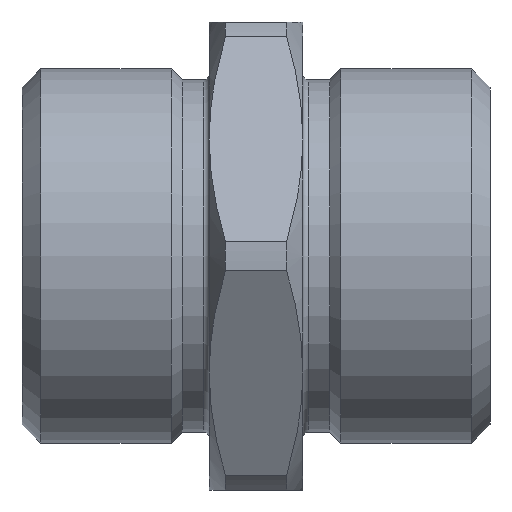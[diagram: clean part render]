
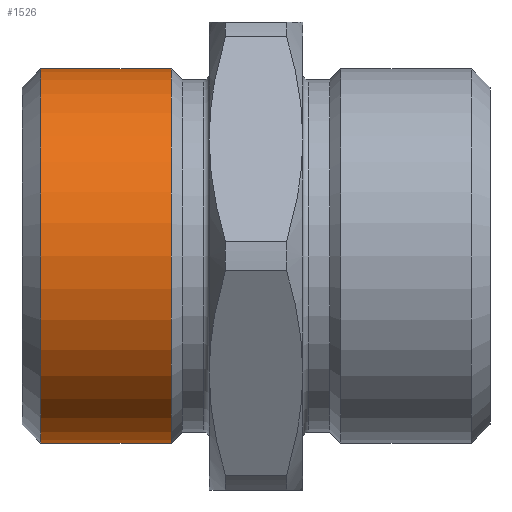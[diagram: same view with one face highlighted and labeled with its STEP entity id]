
A CAD part, front view. The second image highlights one B-rep face of the part: STEP entity #1526.
In plain terms, the highlighted cylindrical face has radius 16 mm (diameter 32 mm), a partial arc.
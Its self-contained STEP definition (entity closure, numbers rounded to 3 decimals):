
#83 = EDGE_LOOP ( 'NONE', ( #300, #298, #299, #296 ) ) ;
#95 = VERTEX_POINT ( 'NONE', #1060 ) ;
#157 = VERTEX_POINT ( 'NONE', #944 ) ;
#163 = VERTEX_POINT ( 'NONE', #827 ) ;
#164 = VERTEX_POINT ( 'NONE', #819 ) ;
#296 = ORIENTED_EDGE ( 'NONE', *, *, #1454, .F. ) ;
#298 = ORIENTED_EDGE ( 'NONE', *, *, #1408, .T. ) ;
#299 = ORIENTED_EDGE ( 'NONE', *, *, #1411, .T. ) ;
#300 = ORIENTED_EDGE ( 'NONE', *, *, #1496, .F. ) ;
#464 = CIRCLE ( 'NONE', #616, 16. ) ;
#467 = LINE ( 'NONE', #1203, #470 ) ;
#470 = VECTOR ( 'NONE', #1166, 1000. ) ;
#530 = AXIS2_PLACEMENT_3D ( 'NONE', #683, #685, #688 ) ;
#583 = AXIS2_PLACEMENT_3D ( 'NONE', #1025, #1022, #1021 ) ;
#616 = AXIS2_PLACEMENT_3D ( 'NONE', #1202, #1201, #1200 ) ;
#683 = CARTESIAN_POINT ( 'NONE',  ( 21.738, 0., 0. ) ) ;
#685 = DIRECTION ( 'NONE',  ( 1., 0., 0. ) ) ;
#688 = DIRECTION ( 'NONE',  ( 0., 0., -1. ) ) ;
#819 = CARTESIAN_POINT ( 'NONE',  ( -27.25, 0., -16. ) ) ;
#827 = CARTESIAN_POINT ( 'NONE',  ( -38.4, 0., 16. ) ) ;
#837 = DIRECTION ( 'NONE',  ( 1., 0., 0. ) ) ;
#838 = CARTESIAN_POINT ( 'NONE',  ( 21.738, 0., 16. ) ) ;
#944 = CARTESIAN_POINT ( 'NONE',  ( -27.25, 0., 16. ) ) ;
#1021 = DIRECTION ( 'NONE',  ( 0., 0., -1. ) ) ;
#1022 = DIRECTION ( 'NONE',  ( 1., 0., 0. ) ) ;
#1025 = CARTESIAN_POINT ( 'NONE',  ( -27.25, 0., 0. ) ) ;
#1060 = CARTESIAN_POINT ( 'NONE',  ( -38.4, 0., -16. ) ) ;
#1166 = DIRECTION ( 'NONE',  ( 1., 0., 0. ) ) ;
#1200 = DIRECTION ( 'NONE',  ( 0., 0., -1. ) ) ;
#1201 = DIRECTION ( 'NONE',  ( 1., 0., 0. ) ) ;
#1202 = CARTESIAN_POINT ( 'NONE',  ( -38.4, 0., 0. ) ) ;
#1203 = CARTESIAN_POINT ( 'NONE',  ( 21.738, 0., -16. ) ) ;
#1408 = EDGE_CURVE ( 'NONE', #163, #95, #464, .T. ) ;
#1411 = EDGE_CURVE ( 'NONE', #95, #164, #467, .T. ) ;
#1454 = EDGE_CURVE ( 'NONE', #157, #164, #1603, .T. ) ;
#1496 = EDGE_CURVE ( 'NONE', #163, #157, #1659, .T. ) ;
#1526 = ADVANCED_FACE ( 'NONE', ( #1697 ), #1713, .T. ) ;
#1603 = CIRCLE ( 'NONE', #583, 16. ) ;
#1659 = LINE ( 'NONE', #838, #1661 ) ;
#1661 = VECTOR ( 'NONE', #837, 1000. ) ;
#1697 = FACE_OUTER_BOUND ( 'NONE', #83, .T. ) ;
#1713 = CYLINDRICAL_SURFACE ( 'NONE', #530, 16. ) ;
